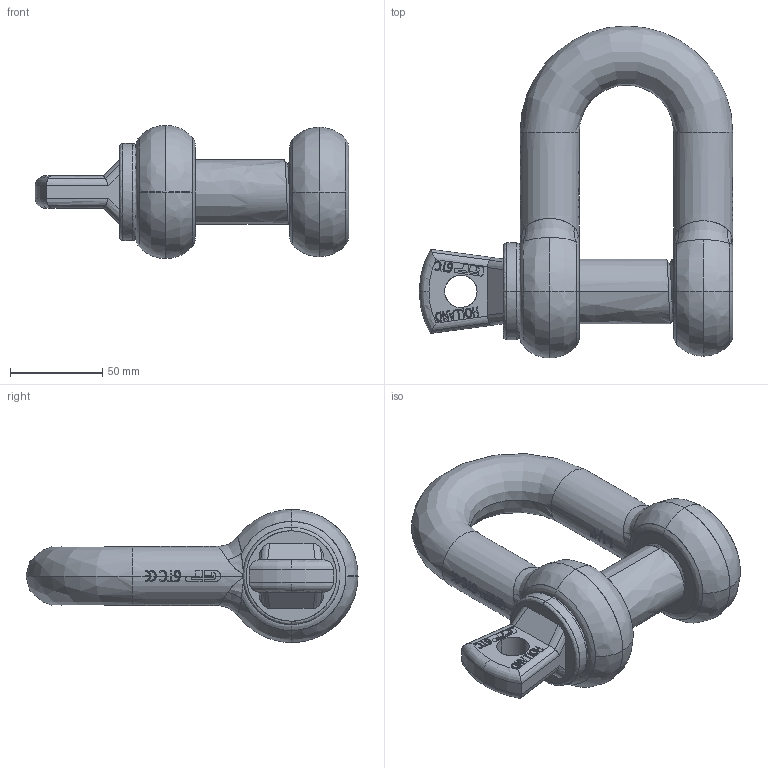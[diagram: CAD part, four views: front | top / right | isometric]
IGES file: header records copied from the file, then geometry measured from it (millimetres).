
Start section: START RECORD GO HERE.
Global section: file name: GPGDBB32.igs; native system: Solidworks 2009                             ; preprocessor: Solidworks                 ; author: v.b.; organization: P4; date: 20090817.162300; units: millimetre
Bounding box: 169.5 x 179.5 x 72 mm (x, y, z)
Surface area: 77622.1 mm2 (no closed solid volume)
Topology: 0 solids, 0 shells, 695 faces, 4396 edges, 4388 vertices
Faces by surface type: plane 305, bspline 244, revolution 146
